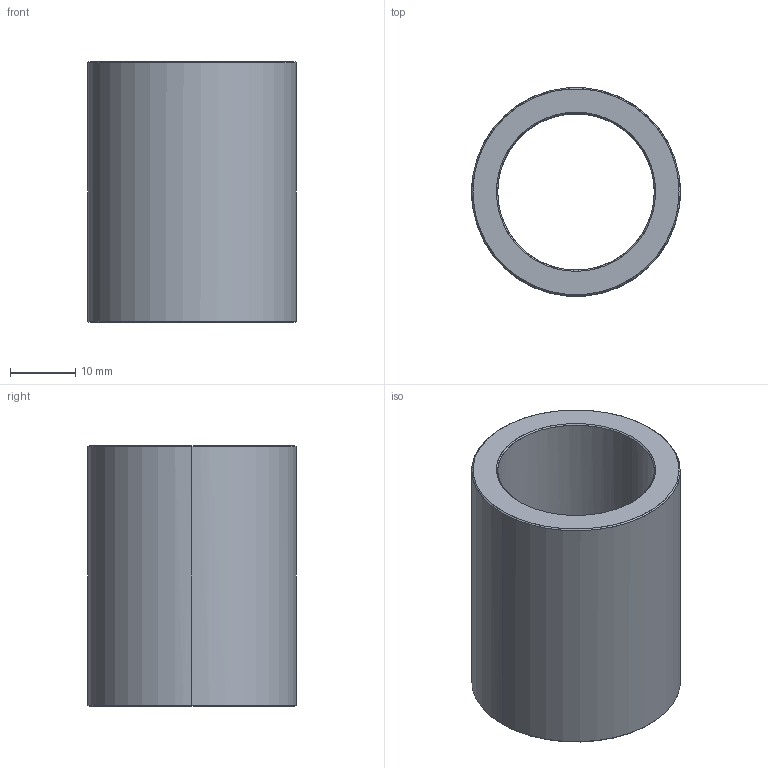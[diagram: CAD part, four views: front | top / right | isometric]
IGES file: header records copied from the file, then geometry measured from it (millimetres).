
Start section: Write IGES format                                    datakit 2008 (c)
Global section: file name: Unknown; native system: DATAKIT Converter; preprocessor: Unknown; author: Unknown; organization: Unknown; date: 950613.180003; units: millimetre
Bounding box: 32 x 31.89 x 40 mm (x, y, z)
Surface area: 7699.7 mm2 (no closed solid volume)
Topology: 0 solids, 0 shells, 14 faces, 56 edges, 56 vertices
Faces by surface type: revolution 12, bspline 2
